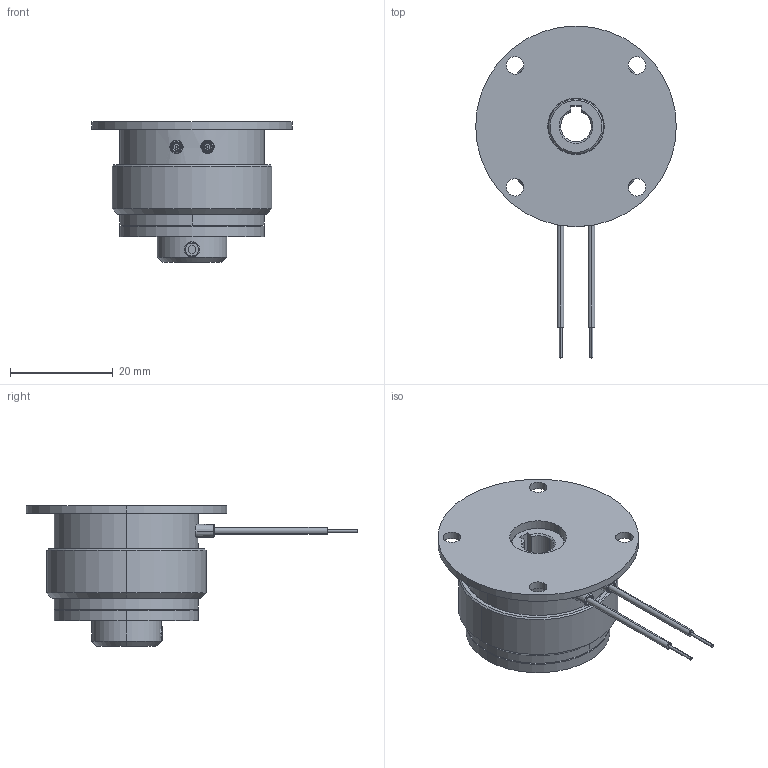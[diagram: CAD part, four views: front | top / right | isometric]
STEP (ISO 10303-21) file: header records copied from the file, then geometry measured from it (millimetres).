
FILE_DESCRIPTION (( 'STEP AP214' ), '1' );
FILE_NAME ('dr_bk_0103-130_mu.STEP', '2021-11-17T07:46:58', ( '' ), ( '' ), 'SwSTEP 2.0', 'SolidWorks 2019', '' );
FILE_SCHEMA (( 'AUTOMOTIVE_DESIGN' ));
Length unit declared in the file: millimetre
Products named in the file (12): 10068719_000; 10068718_000_Einbaul„nge 1,35mm; dr_bk_0103-130_mu; 10068721_000; 10068716_000; 10068715_000; 10068717_000_M3x5 ISO 4029; 10068720_000; 10069103_000; 10069125_000; 10068722_000; 10068718_000_Einbaul„nge 1,4mm
Assembly tree (16 placements, depth 4):
  dr_bk_0103-130_mu
    10069103_000
    10069125_000
    10068715_000
      10068716_000
      10068719_000
        10068720_000
        10068721_000
        10068718_000_Einbaul„nge 1,35mm  x2
        10068722_000  x2
      10068718_000_Einbaul„nge 1,4mm  x2
      10068722_000  x2
      10068717_000_M3x5 ISO 4029
Bounding box: 39 x 64.5 x 27.35 mm (x, y, z)
Volume: 14899.1 mm3; surface area: 12075.3 mm2
Topology: 16 solids, 16 shells, 276 faces, 614 edges, 378 vertices
Faces by surface type: cylinder 126, cone 76, plane 50, torus 16, sphere 8
Entity records: 8019 total; most frequent: CARTESIAN_POINT 1275, DIRECTION 1230, ORIENTED_EDGE 980, AXIS2_PLACEMENT_3D 519, EDGE_CURVE 490, VERTEX_POINT 306, EDGE_LOOP 280, CIRCLE 278
